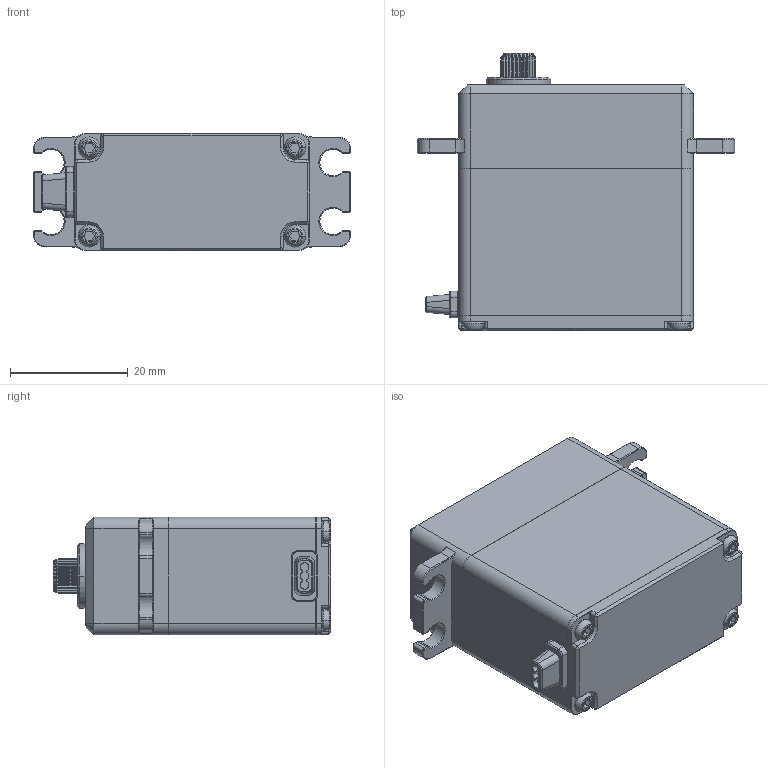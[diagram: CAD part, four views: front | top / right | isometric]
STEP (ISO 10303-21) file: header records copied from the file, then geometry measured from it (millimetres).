
FILE_DESCRIPTION((''),'2;1');
FILE_NAME('DDJ-STDCAR7-A75','2025-05-23T',('扂'),(''),'PRO/ENGINEER BY PARAMETRIC TECHNOLOGY CORPORATION, 2010280','PRO/ENGINEER BY PARAMETRIC TECHNOLOGY CORPORATION, 2010280','');
FILE_SCHEMA(('CONFIG_CONTROL_DESIGN'));
Length unit declared in the file: millimetre
Products named in the file (1): DDJ-STDCAR7-A75
Bounding box: 54 x 47.2 x 20 mm (x, y, z)
Volume: 33826.2 mm3; surface area: 7365.5 mm2
Topology: 1 solids, 1 shells, 589 faces, 1488 edges, 911 vertices
Faces by surface type: plane 220, cylinder 213, cone 84, torus 48, bspline 16, sphere 8
Entity records: 21094 total; most frequent: CARTESIAN_POINT 6933, DIRECTION 2998, ORIENTED_EDGE 2964, EDGE_CURVE 1482, AXIS2_PLACEMENT_3D 1108, VERTEX_POINT 911, VECTOR 782, LINE 782
